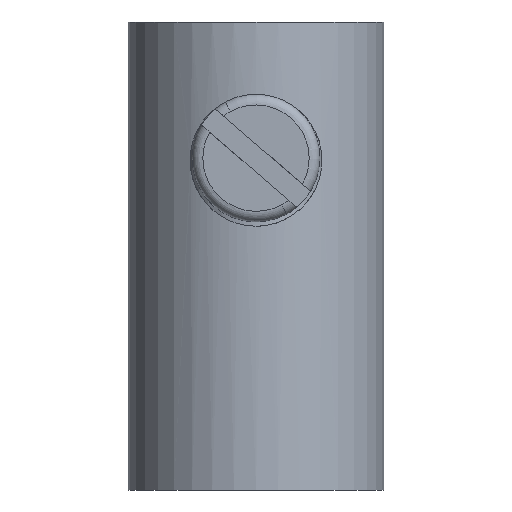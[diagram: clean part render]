
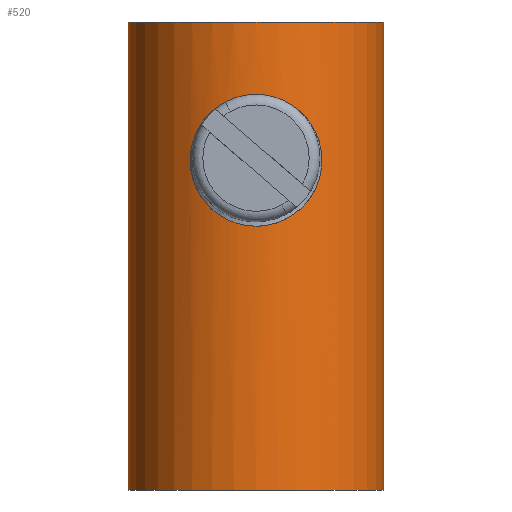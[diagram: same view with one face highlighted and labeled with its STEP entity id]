
A CAD part, front view. The second image highlights one B-rep face of the part: STEP entity #520.
In plain terms, the highlighted cylindrical face has radius 3 mm (diameter 6 mm), a partial arc.
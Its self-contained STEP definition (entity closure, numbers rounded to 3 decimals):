
#394=CARTESIAN_POINT('Axis2P3D Location',(0.,0.,5.15)) ;
#399=CARTESIAN_POINT('Line Origine',(3.,0.,5.15)) ;
#403=CARTESIAN_POINT('Vertex',(3.,0.,-0.35)) ;
#405=CARTESIAN_POINT('Vertex',(3.,0.,10.65)) ;
#412=CARTESIAN_POINT('Vertex',(-3.,0.,-0.35)) ;
#415=CARTESIAN_POINT('Line Origine',(-3.,0.,5.15)) ;
#419=CARTESIAN_POINT('Vertex',(-3.,0.,10.65)) ;
#439=CARTESIAN_POINT('Axis2P3D Location',(0.,0.,-0.35)) ;
#467=CARTESIAN_POINT('Axis2P3D Location',(0.,0.,10.65)) ;
#479=CARTESIAN_POINT('Control Point',(0.,-3.,5.85)) ;
#480=CARTESIAN_POINT('Control Point',(-0.302,-3.,5.85)) ;
#481=CARTESIAN_POINT('Control Point',(-0.604,-2.962,5.923)) ;
#482=CARTESIAN_POINT('Control Point',(-0.872,-2.887,6.069)) ;
#483=CARTESIAN_POINT('Control Point',(-1.246,-2.74,6.398)) ;
#484=CARTESIAN_POINT('Control Point',(-1.468,-2.619,6.844)) ;
#485=CARTESIAN_POINT('Control Point',(-1.529,-2.581,7.04)) ;
#486=CARTESIAN_POINT('Control Point',(-1.583,-2.549,7.45)) ;
#487=CARTESIAN_POINT('Control Point',(-1.503,-2.597,7.855)) ;
#488=CARTESIAN_POINT('Control Point',(-1.431,-2.64,8.044)) ;
#489=CARTESIAN_POINT('Control Point',(-1.194,-2.763,8.457)) ;
#490=CARTESIAN_POINT('Control Point',(-0.822,-2.9,8.757)) ;
#491=CARTESIAN_POINT('Control Point',(-0.566,-2.967,8.885)) ;
#492=CARTESIAN_POINT('Control Point',(-0.283,-3.,8.95)) ;
#493=CARTESIAN_POINT('Control Point',(0.,-3.,8.95)) ;
#494=CARTESIAN_POINT('Vertex',(0.,-3.,5.85)) ;
#496=CARTESIAN_POINT('Vertex',(0.,-3.,8.95)) ;
#500=CARTESIAN_POINT('Control Point',(0.,-3.,8.95)) ;
#501=CARTESIAN_POINT('Control Point',(0.302,-3.,8.95)) ;
#502=CARTESIAN_POINT('Control Point',(0.604,-2.962,8.877)) ;
#503=CARTESIAN_POINT('Control Point',(0.872,-2.887,8.731)) ;
#504=CARTESIAN_POINT('Control Point',(1.246,-2.74,8.402)) ;
#505=CARTESIAN_POINT('Control Point',(1.468,-2.619,7.956)) ;
#506=CARTESIAN_POINT('Control Point',(1.529,-2.581,7.76)) ;
#507=CARTESIAN_POINT('Control Point',(1.583,-2.549,7.35)) ;
#508=CARTESIAN_POINT('Control Point',(1.503,-2.597,6.945)) ;
#509=CARTESIAN_POINT('Control Point',(1.431,-2.64,6.756)) ;
#510=CARTESIAN_POINT('Control Point',(1.194,-2.763,6.343)) ;
#511=CARTESIAN_POINT('Control Point',(0.822,-2.9,6.043)) ;
#512=CARTESIAN_POINT('Control Point',(0.566,-2.967,5.915)) ;
#513=CARTESIAN_POINT('Control Point',(0.283,-3.,5.85)) ;
#514=CARTESIAN_POINT('Control Point',(0.,-3.,5.85)) ;
#395=DIRECTION('Axis2P3D Direction',(0.,0.,1.)) ;
#396=DIRECTION('Axis2P3D XDirection',(-1.,0.,0.)) ;
#400=DIRECTION('Vector Direction',(0.,0.,1.)) ;
#416=DIRECTION('Vector Direction',(0.,0.,1.)) ;
#440=DIRECTION('Axis2P3D Direction',(0.,0.,1.)) ;
#468=DIRECTION('Axis2P3D Direction',(0.,0.,1.)) ;
#397=AXIS2_PLACEMENT_3D('Cylinder Axis2P3D',#394,#395,#396) ;
#441=AXIS2_PLACEMENT_3D('Circle Axis2P3D',#439,#440,$) ;
#469=AXIS2_PLACEMENT_3D('Circle Axis2P3D',#467,#468,$) ;
#473=ORIENTED_EDGE('',*,*,#421,.F.) ;
#474=ORIENTED_EDGE('',*,*,#443,.T.) ;
#475=ORIENTED_EDGE('',*,*,#407,.T.) ;
#476=ORIENTED_EDGE('',*,*,#471,.F.) ;
#517=ORIENTED_EDGE('',*,*,#498,.T.) ;
#518=ORIENTED_EDGE('',*,*,#515,.T.) ;
#519=FACE_BOUND('',#516,.T.) ;
#401=VECTOR('Line Direction',#400,1.) ;
#417=VECTOR('Line Direction',#416,1.) ;
#520=ADVANCED_FACE('Koerper',(#477,#519),#398,.T.) ;
#478=B_SPLINE_CURVE_WITH_KNOTS('',5,(#479,#480,#481,#482,#483,#484,#485,#486,#487,#488,#489,#490,#491,#492,#493),.UNSPECIFIED.,.F.,.U.,(6,3,3,3,6),(0.,2.135,3.58,5.016,7.018),.UNSPECIFIED.) ;
#499=B_SPLINE_CURVE_WITH_KNOTS('',5,(#500,#501,#502,#503,#504,#505,#506,#507,#508,#509,#510,#511,#512,#513,#514),.UNSPECIFIED.,.F.,.U.,(6,3,3,3,6),(0.,2.135,3.58,5.016,7.018),.UNSPECIFIED.) ;
#442=CIRCLE('generated circle',#441,3.) ;
#470=CIRCLE('generated circle',#469,3.) ;
#398=CYLINDRICAL_SURFACE('generated cylinder',#397,3.) ;
#407=EDGE_CURVE('',#404,#406,#402,.T.) ;
#421=EDGE_CURVE('',#413,#420,#418,.T.) ;
#443=EDGE_CURVE('',#413,#404,#442,.T.) ;
#471=EDGE_CURVE('',#420,#406,#470,.T.) ;
#498=EDGE_CURVE('',#495,#497,#478,.T.) ;
#515=EDGE_CURVE('',#497,#495,#499,.T.) ;
#472=EDGE_LOOP('',(#473,#474,#475,#476)) ;
#516=EDGE_LOOP('',(#517,#518)) ;
#477=FACE_OUTER_BOUND('',#472,.T.) ;
#402=LINE('Line',#399,#401) ;
#418=LINE('Line',#415,#417) ;
#404=VERTEX_POINT('',#403) ;
#406=VERTEX_POINT('',#405) ;
#413=VERTEX_POINT('',#412) ;
#420=VERTEX_POINT('',#419) ;
#495=VERTEX_POINT('',#494) ;
#497=VERTEX_POINT('',#496) ;
